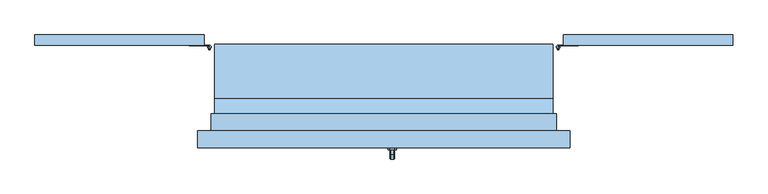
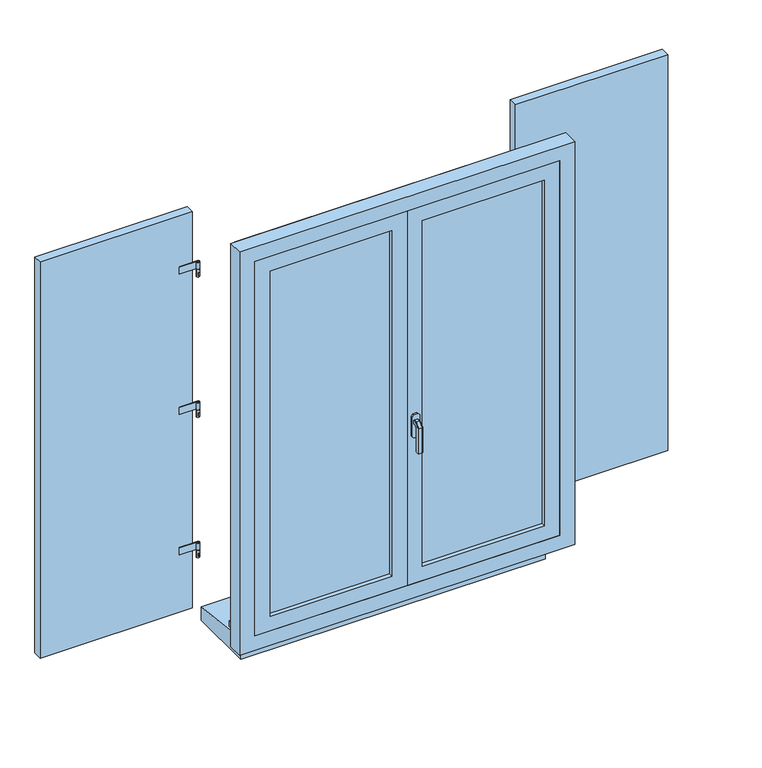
"""IFC4 building model written with IfcOpenShell, lengths in millimetres: window geometry, 2 Vantaux droits - Volets et petits bois : 1m x 1.35m - Appui Béton."""

from ifc_helpers import new_model, si_unit, point, frame, frame_2d, origin, place, context, project, spatial, polyline, circle_curve, trimmed, segment, composite_curve, outline, extrude, faceted_brep, source, transform, mapped, element, save
from ifc_brep_helpers import plane_surface, cylinder_surface, advanced_brep


def window_a55630fe(model_context):
    return source(origin(), model_context, "Body", "SolidModel", [
        extrude(outline(polyline([(-1030.0, 158.0), (-1030.0, 188.0), (-530.0, 188.0), (-530.0, 158.0), (-1030.0, 158.0)])), frame((0.0, 0.0, 775.0), z_axis=(0.0, 0.0, 1.0), x_axis=(1.0, 0.0, 0.0)), (0.0, 0.0, 1.0), 1375.0),
        advanced_brep(
        [(-510.0, 153.0, 975.0), (-520.0, 153.0, 975.0), (-510.0, 153.0, 950.0), (-520.0, 153.0, 950.0), (-517.0, 148.4174243, 955.0), (-517.0, 148.4174243, 965.0), (-513.0, 148.4174243, 965.0), (-513.0, 148.4174243, 955.0), (-513.0, 145.0, 965.0), (-517.0, 145.0, 965.0), (-517.0, 145.0, 955.0), (-513.0, 145.0, 955.0)],
        [
            (0, 1, circle_curve(frame((-515.0, 153.0, 975.0), z_axis=(0.0, 0.0, 1.0), x_axis=(-1.0, 0.0, 0.0)), 5.0)),
            (1, 0, circle_curve(frame((-515.0, 153.0, 975.0), z_axis=(0.0, 0.0, 1.0), x_axis=(-1.0, 0.0, 0.0)), 5.0)),
            (2, 3, circle_curve(frame((-515.0, 153.0, 950.0), z_axis=(0.0, 0.0, -1.0), x_axis=(-1.0, 0.0, 0.0)), 5.0)),
            (3, 2, circle_curve(frame((-515.0, 153.0, 950.0), z_axis=(0.0, 0.0, -1.0), x_axis=(-1.0, 0.0, 0.0)), 5.0)),
            (1, 3),
            (2, 0),
            (4, 5),
            (5, 6, circle_curve(frame((-515.0, 153.0, 965.0), z_axis=(0.0, 0.0, 1.0), x_axis=(-1.0, 0.0, 0.0)), 5.0)),
            (6, 7),
            (7, 4, circle_curve(frame((-515.0, 153.0, 955.0), z_axis=(0.0, 0.0, -1.0), x_axis=(-1.0, 0.0, 0.0)), 5.0)),
            (8, 6),
            (5, 9),
            (9, 8),
            (10, 4),
            (7, 11),
            (11, 10),
            (10, 9),
            (8, 11),
        ],
        [
            plane_surface(frame((-520.0, 153.0, 975.0), z_axis=(0.0, 0.0, 1.0), x_axis=(0.0, 1.0, 0.0))),
            plane_surface(frame((-520.0, 153.0, 950.0), z_axis=(0.0, 0.0, -1.0), x_axis=(0.0, -1.0, 0.0))),
            cylinder_surface(frame((-515.0, 153.0, 950.0), z_axis=(0.0, 0.0, 1.0), x_axis=(-1.0, 0.0, 0.0)), 5.0),
            plane_surface(frame((-517.0, 145.0, 965.0), z_axis=(0.0, 0.0, 1.0), x_axis=(0.0, 1.0, 0.0))),
            plane_surface(frame((-517.0, 145.0, 955.0), z_axis=(0.0, 0.0, -1.0), x_axis=(0.0, -1.0, 0.0))),
            plane_surface(frame((-517.0, 145.0, 965.0), z_axis=(-1.0, 0.0, 0.0), x_axis=(0.0, 0.0, -1.0))),
            plane_surface(frame((-513.0, 150.0, 965.0), z_axis=(1.0, 0.0, 0.0), x_axis=(0.0, 0.0, -1.0))),
            plane_surface(frame((-513.0, 145.0, 965.0), z_axis=(0.0, -1.0, 0.0), x_axis=(0.0, 0.0, -1.0))),
        ],
        [
            (0, [[1, 2]]),
            (1, [[3, 4]]),
            (2, [[5, -3, 6, -2], [7, 8, 9, 10]]),
            (2, [[-6, -4, -5, -1]]),
            (3, [[11, -8, 12, 13]]),
            (4, [[14, -10, 15, 16]]),
            (5, [[-12, -7, -14, 17]]),
            (6, [[-15, -9, -11, 18]]),
            (7, [[-17, -16, -18, -13]]),
        ],
    ),
        extrude(outline(composite_curve([segment(trimmed(circle_curve(frame_2d((-515.0, 153.0)), 5.0), [point((-515.0, 158.0))], [point((-520.0, 153.0))], False, "CARTESIAN"), True, "CONTINUOUS"), segment(polyline([(-520.0, 153.0), (-517.5, 153.0)]), True, "CONTINUOUS"), segment(trimmed(circle_curve(frame_2d((-515.0, 153.0)), 2.5), [point((-517.5, 153.0))], [point((-515.0, 155.5))], True, "CARTESIAN"), True, "CONTINUOUS"), segment(polyline([(-515.0, 155.5), (-574.3092325, 155.5), (-574.3092325, 158.0), (-515.0, 158.0)]), True, "CONTINUOUS")], self_intersect=False)), frame((0.0, 0.0, 975.0), z_axis=(0.0, 0.0, 1.0), x_axis=(1.0, 0.0, 0.0)), (0.0, 0.0, 1.0), 25.0),
        extrude(outline(composite_curve([segment(trimmed(circle_curve(frame_2d((-515.0, 153.0)), 2.5), [point((-512.5, 153.0))], [point((-517.5, 153.0))], False, "CARTESIAN"), True, "CONTINUOUS"), segment(trimmed(circle_curve(frame_2d((-515.0, 153.0)), 2.5), [point((-517.5, 153.0))], [point((-512.5, 153.0))], False, "CARTESIAN"), True, "CONTINUOUS")], self_intersect=False)), frame((0.0, 0.0, 975.0), z_axis=(0.0, 0.0, 1.0), x_axis=(1.0, 0.0, 0.0)), (0.0, 0.0, 1.0), 25.0),
        advanced_brep(
        [(-510.0, 153.0, 1950.0), (-520.0, 153.0, 1950.0), (-510.0, 153.0, 1925.0), (-520.0, 153.0, 1925.0), (-513.0, 148.4174243, 1940.0), (-513.0, 148.4174243, 1930.0), (-517.0, 148.4174243, 1930.0), (-517.0, 148.4174243, 1940.0), (-513.0, 145.0, 1940.0), (-517.0, 145.0, 1940.0), (-513.0, 145.0, 1930.0), (-517.0, 145.0, 1930.0)],
        [
            (0, 1, circle_curve(frame((-515.0, 153.0, 1950.0), z_axis=(0.0, 0.0, 1.0), x_axis=(-1.0, 0.0, 0.0)), 5.0)),
            (1, 0, circle_curve(frame((-515.0, 153.0, 1950.0), z_axis=(0.0, 0.0, 1.0), x_axis=(-1.0, 0.0, 0.0)), 5.0)),
            (2, 3, circle_curve(frame((-515.0, 153.0, 1925.0), z_axis=(0.0, 0.0, -1.0), x_axis=(-1.0, 0.0, 0.0)), 5.0)),
            (3, 2, circle_curve(frame((-515.0, 153.0, 1925.0), z_axis=(0.0, 0.0, -1.0), x_axis=(-1.0, 0.0, 0.0)), 5.0)),
            (1, 3),
            (2, 0),
            (4, 5),
            (5, 6, circle_curve(frame((-515.0, 153.0, 1930.0), z_axis=(0.0, 0.0, -1.0), x_axis=(-1.0, 0.0, 0.0)), 5.0)),
            (6, 7),
            (7, 4, circle_curve(frame((-515.0, 153.0, 1940.0), z_axis=(0.0, 0.0, 1.0), x_axis=(-1.0, 0.0, 0.0)), 5.0)),
            (8, 4),
            (7, 9),
            (9, 8),
            (10, 11),
            (11, 6),
            (5, 10),
            (9, 11),
            (10, 8),
        ],
        [
            plane_surface(frame((-520.0, 153.0, 1950.0), z_axis=(0.0, 0.0, 1.0), x_axis=(0.0, 1.0, 0.0))),
            plane_surface(frame((-520.0, 153.0, 1925.0), z_axis=(0.0, 0.0, -1.0), x_axis=(0.0, -1.0, 0.0))),
            cylinder_surface(frame((-515.0, 153.0, 1925.0), z_axis=(0.0, 0.0, 1.0), x_axis=(-1.0, 0.0, 0.0)), 5.0),
            plane_surface(frame((-513.0, 145.0, 1940.0), z_axis=(0.0, 0.0, 1.0), x_axis=(-1.0, 0.0, 0.0))),
            plane_surface(frame((-513.0, 145.0, 1930.0), z_axis=(0.0, 0.0, -1.0), x_axis=(1.0, 0.0, 0.0))),
            plane_surface(frame((-513.0, 145.0, 1940.0), z_axis=(0.0, -1.0, 0.0), x_axis=(0.0, 0.0, -1.0))),
            plane_surface(frame((-517.0, 145.0, 1940.0), z_axis=(-1.0, 0.0, 0.0), x_axis=(0.0, 0.0, -1.0))),
            plane_surface(frame((-513.0, 148.4174243, 1940.0), z_axis=(1.0, 0.0, 0.0), x_axis=(0.0, 0.0, -1.0))),
        ],
        [
            (0, [[1, 2]]),
            (1, [[3, 4]]),
            (2, [[5, -3, 6, -2], [7, 8, 9, 10]]),
            (2, [[-6, -4, -5, -1]]),
            (3, [[11, -10, 12, 13]]),
            (4, [[14, 15, -8, 16]]),
            (5, [[17, -14, 18, -13]]),
            (6, [[-9, -15, -17, -12]]),
            (7, [[-18, -16, -7, -11]]),
        ],
    ),
        extrude(outline(polyline([(-513.0, 145.0), (-517.0, 145.0), (-517.0, 148.4174243), (-513.0, 148.4174243), (-513.0, 145.0)])), frame((0.0, 0.0, 1442.5), z_axis=(0.0, 0.0, 1.0), x_axis=(1.0, 0.0, 0.0)), (0.0, 0.0, 1.0), 10.0),
        extrude(outline(composite_curve([segment(trimmed(circle_curve(frame_2d((-515.0, 153.0)), 5.0), [point((-515.0, 158.0))], [point((-520.0, 153.0))], False, "CARTESIAN"), True, "CONTINUOUS"), segment(polyline([(-520.0, 153.0), (-517.5, 153.0)]), True, "CONTINUOUS"), segment(trimmed(circle_curve(frame_2d((-515.0, 153.0)), 2.5), [point((-517.5, 153.0))], [point((-512.5, 153.0))], True, "CARTESIAN"), True, "CONTINUOUS"), segment(trimmed(circle_curve(frame_2d((-515.0, 153.0)), 2.5), [point((-512.5, 153.0))], [point((-515.0, 155.5))], True, "CARTESIAN"), True, "CONTINUOUS"), segment(polyline([(-515.0, 155.5), (-574.3092325, 155.5), (-574.3092325, 158.0), (-515.0, 158.0)]), True, "CONTINUOUS")], self_intersect=False)), frame((0.0, 0.0, 1462.5), z_axis=(0.0, 0.0, 1.0), x_axis=(1.0, 0.0, 0.0)), (0.0, 0.0, 1.0), 25.0),
        extrude(outline(composite_curve([segment(trimmed(circle_curve(frame_2d((-515.0, 153.0)), 2.5), [point((-512.5, 153.0))], [point((-517.5, 153.0))], False, "CARTESIAN"), True, "CONTINUOUS"), segment(trimmed(circle_curve(frame_2d((-515.0, 153.0)), 2.5), [point((-517.5, 153.0))], [point((-512.5, 153.0))], False, "CARTESIAN"), True, "CONTINUOUS")], self_intersect=False)), frame((0.0, 0.0, 1462.5), z_axis=(0.0, 0.0, 1.0), x_axis=(1.0, 0.0, 0.0)), (0.0, 0.0, 1.0), 25.0),
        extrude(outline(composite_curve([segment(trimmed(circle_curve(frame_2d((-515.0, 153.0)), 5.0), [point((-510.0, 153.0))], [point((-520.0, 153.0))], False, "CARTESIAN"), True, "CONTINUOUS"), segment(trimmed(circle_curve(frame_2d((-515.0, 153.0)), 5.0), [point((-520.0, 153.0))], [point((-510.0, 153.0))], False, "CARTESIAN"), True, "CONTINUOUS")], self_intersect=False)), frame((0.0, 0.0, 1437.5), z_axis=(0.0, 0.0, 1.0), x_axis=(1.0, 0.0, 0.0)), (0.0, 0.0, 1.0), 25.0),
        extrude(outline(composite_curve([segment(trimmed(circle_curve(frame_2d((-515.0, 153.0)), 5.0), [point((-515.0, 158.0))], [point((-520.0, 153.0))], False, "CARTESIAN"), True, "CONTINUOUS"), segment(polyline([(-520.0, 153.0), (-517.5, 153.0)]), True, "CONTINUOUS"), segment(trimmed(circle_curve(frame_2d((-515.0, 153.0)), 2.5), [point((-517.5, 153.0))], [point((-515.0, 155.5))], True, "CARTESIAN"), True, "CONTINUOUS"), segment(polyline([(-515.0, 155.5), (-574.3092325, 155.5), (-574.3092325, 158.0), (-515.0, 158.0)]), True, "CONTINUOUS")], self_intersect=False)), frame((0.0, 0.0, 1950.0), z_axis=(0.0, 0.0, 1.0), x_axis=(1.0, 0.0, 0.0)), (0.0, 0.0, 1.0), 25.0),
        extrude(outline(composite_curve([segment(trimmed(circle_curve(frame_2d((-515.0, 153.0)), 2.5), [point((-512.5, 153.0))], [point((-517.5, 153.0))], False, "CARTESIAN"), True, "CONTINUOUS"), segment(trimmed(circle_curve(frame_2d((-515.0, 153.0)), 2.5), [point((-517.5, 153.0))], [point((-512.5, 153.0))], False, "CARTESIAN"), True, "CONTINUOUS")], self_intersect=False)), frame((0.0, 0.0, 1950.0), z_axis=(0.0, 0.0, 1.0), x_axis=(1.0, 0.0, 0.0)), (0.0, 0.0, 1.0), 25.0),
        extrude(outline(polyline([(1030.0, 158.0), (530.0, 158.0), (530.0, 188.0), (1030.0, 188.0), (1030.0, 158.0)])), frame((0.0, 0.0, 775.0), z_axis=(0.0, 0.0, 1.0), x_axis=(1.0, 0.0, 0.0)), (0.0, 0.0, 1.0), 1375.0),
        advanced_brep(
        [(510.0, 153.0, 975.0), (520.0, 153.0, 975.0), (510.0, 153.0, 950.0), (520.0, 153.0, 950.0), (517.0, 148.4174243, 955.0), (513.0, 148.4174243, 955.0), (513.0, 148.4174243, 965.0), (517.0, 148.4174243, 965.0), (513.0, 145.0, 965.0), (517.0, 145.0, 965.0), (517.0, 145.0, 955.0), (513.0, 145.0, 955.0)],
        [
            (0, 1, circle_curve(frame((515.0, 153.0, 975.0), z_axis=(0.0, 0.0, 1.0), x_axis=(1.0, 0.0, 0.0)), 5.0)),
            (1, 0, circle_curve(frame((515.0, 153.0, 975.0), z_axis=(0.0, 0.0, 1.0), x_axis=(1.0, 0.0, 0.0)), 5.0)),
            (2, 3, circle_curve(frame((515.0, 153.0, 950.0), z_axis=(0.0, 0.0, -1.0), x_axis=(1.0, 0.0, 0.0)), 5.0)),
            (3, 2, circle_curve(frame((515.0, 153.0, 950.0), z_axis=(0.0, 0.0, -1.0), x_axis=(1.0, 0.0, 0.0)), 5.0)),
            (0, 2),
            (3, 1),
            (4, 5, circle_curve(frame((515.0, 153.0, 955.0), z_axis=(0.0, 0.0, -1.0), x_axis=(1.0, 0.0, 0.0)), 5.0)),
            (5, 6),
            (6, 7, circle_curve(frame((515.0, 153.0, 965.0), z_axis=(0.0, 0.0, 1.0), x_axis=(1.0, 0.0, 0.0)), 5.0)),
            (7, 4),
            (8, 9),
            (9, 7),
            (6, 8),
            (10, 11),
            (11, 5),
            (4, 10),
            (9, 10),
            (11, 8),
        ],
        [
            plane_surface(frame((520.0, 153.0, 975.0), z_axis=(0.0, 0.0, 1.0), x_axis=(0.0, 1.0, 0.0))),
            plane_surface(frame((520.0, 153.0, 950.0), z_axis=(0.0, 0.0, -1.0), x_axis=(0.0, -1.0, 0.0))),
            cylinder_surface(frame((515.0, 153.0, 950.0), z_axis=(0.0, 0.0, 1.0), x_axis=(1.0, 0.0, 0.0)), 5.0),
            plane_surface(frame((517.0, 145.0, 965.0), z_axis=(0.0, 0.0, 1.0), x_axis=(0.0, 1.0, 0.0))),
            plane_surface(frame((517.0, 145.0, 955.0), z_axis=(0.0, 0.0, -1.0), x_axis=(0.0, -1.0, 0.0))),
            plane_surface(frame((517.0, 145.0, 965.0), z_axis=(1.0, 0.0, 0.0), x_axis=(0.0, 0.0, -1.0))),
            plane_surface(frame((513.0, 150.0, 965.0), z_axis=(-1.0, 0.0, 0.0), x_axis=(0.0, 0.0, -1.0))),
            plane_surface(frame((513.0, 145.0, 965.0), z_axis=(0.0, -1.0, 0.0), x_axis=(0.0, 0.0, -1.0))),
        ],
        [
            (0, [[1, 2]]),
            (1, [[3, 4]]),
            (2, [[-1, 5, -4, 6], [7, 8, 9, 10]]),
            (2, [[-2, -6, -3, -5]]),
            (3, [[11, 12, -9, 13]]),
            (4, [[14, 15, -7, 16]]),
            (5, [[17, -16, -10, -12]]),
            (6, [[18, -13, -8, -15]]),
            (7, [[-11, -18, -14, -17]]),
        ],
    ),
        extrude(outline(composite_curve([segment(polyline([(515.0, 158.0), (574.3092325, 158.0), (574.3092325, 155.5), (515.0, 155.5)]), True, "CONTINUOUS"), segment(trimmed(circle_curve(frame_2d((515.0, 153.0)), 2.5), [point((515.0, 155.5))], [point((517.5, 153.0))], True, "CARTESIAN"), True, "CONTINUOUS"), segment(polyline([(517.5, 153.0), (520.0, 153.0)]), True, "CONTINUOUS"), segment(trimmed(circle_curve(frame_2d((515.0, 153.0)), 5.0), [point((520.0, 153.0))], [point((515.0, 158.0))], False, "CARTESIAN"), True, "CONTINUOUS")], self_intersect=False)), frame((0.0, 0.0, 975.0), z_axis=(0.0, 0.0, 1.0), x_axis=(1.0, 0.0, 0.0)), (0.0, 0.0, 1.0), 25.0),
        extrude(outline(composite_curve([segment(trimmed(circle_curve(frame_2d((515.0, 153.0)), 2.5), [point((512.5, 153.0))], [point((517.5, 153.0))], False, "CARTESIAN"), True, "CONTINUOUS"), segment(trimmed(circle_curve(frame_2d((515.0, 153.0)), 2.5), [point((517.5, 153.0))], [point((512.5, 153.0))], False, "CARTESIAN"), True, "CONTINUOUS")], self_intersect=False)), frame((0.0, 0.0, 975.0), z_axis=(0.0, 0.0, 1.0), x_axis=(1.0, 0.0, 0.0)), (0.0, 0.0, 1.0), 25.0),
        advanced_brep(
        [(510.0, 153.0, 1950.0), (520.0, 153.0, 1950.0), (510.0, 153.0, 1925.0), (520.0, 153.0, 1925.0), (513.0, 148.4174243, 1940.0), (517.0, 148.4174243, 1940.0), (517.0, 148.4174243, 1930.0), (513.0, 148.4174243, 1930.0), (513.0, 145.0, 1940.0), (517.0, 145.0, 1940.0), (513.0, 145.0, 1930.0), (517.0, 145.0, 1930.0)],
        [
            (0, 1, circle_curve(frame((515.0, 153.0, 1950.0), z_axis=(0.0, 0.0, 1.0), x_axis=(1.0, 0.0, 0.0)), 5.0)),
            (1, 0, circle_curve(frame((515.0, 153.0, 1950.0), z_axis=(0.0, 0.0, 1.0), x_axis=(1.0, 0.0, 0.0)), 5.0)),
            (2, 3, circle_curve(frame((515.0, 153.0, 1925.0), z_axis=(0.0, 0.0, -1.0), x_axis=(1.0, 0.0, 0.0)), 5.0)),
            (3, 2, circle_curve(frame((515.0, 153.0, 1925.0), z_axis=(0.0, 0.0, -1.0), x_axis=(1.0, 0.0, 0.0)), 5.0)),
            (0, 2),
            (3, 1),
            (4, 5, circle_curve(frame((515.0, 153.0, 1940.0), z_axis=(0.0, 0.0, 1.0), x_axis=(1.0, 0.0, 0.0)), 5.0)),
            (5, 6),
            (6, 7, circle_curve(frame((515.0, 153.0, 1930.0), z_axis=(0.0, 0.0, -1.0), x_axis=(1.0, 0.0, 0.0)), 5.0)),
            (7, 4),
            (8, 9),
            (9, 5),
            (4, 8),
            (10, 7),
            (6, 11),
            (11, 10),
            (8, 10),
            (11, 9),
        ],
        [
            plane_surface(frame((520.0, 153.0, 1950.0), z_axis=(0.0, 0.0, 1.0), x_axis=(0.0, 1.0, 0.0))),
            plane_surface(frame((520.0, 153.0, 1925.0), z_axis=(0.0, 0.0, -1.0), x_axis=(0.0, -1.0, 0.0))),
            cylinder_surface(frame((515.0, 153.0, 1925.0), z_axis=(0.0, 0.0, 1.0), x_axis=(1.0, 0.0, 0.0)), 5.0),
            plane_surface(frame((513.0, 145.0, 1940.0), z_axis=(0.0, 0.0, 1.0), x_axis=(1.0, 0.0, 0.0))),
            plane_surface(frame((513.0, 145.0, 1930.0), z_axis=(0.0, 0.0, -1.0), x_axis=(-1.0, 0.0, 0.0))),
            plane_surface(frame((513.0, 145.0, 1940.0), z_axis=(0.0, -1.0, 0.0), x_axis=(0.0, 0.0, -1.0))),
            plane_surface(frame((517.0, 145.0, 1940.0), z_axis=(1.0, 0.0, 0.0), x_axis=(0.0, 0.0, -1.0))),
            plane_surface(frame((513.0, 148.4174243, 1940.0), z_axis=(-1.0, 0.0, 0.0), x_axis=(0.0, 0.0, -1.0))),
        ],
        [
            (0, [[1, 2]]),
            (1, [[3, 4]]),
            (2, [[-1, 5, -4, 6], [7, 8, 9, 10]]),
            (2, [[-2, -6, -3, -5]]),
            (3, [[11, 12, -7, 13]]),
            (4, [[14, -9, 15, 16]]),
            (5, [[-11, 17, -16, 18]]),
            (6, [[-12, -18, -15, -8]]),
            (7, [[-13, -10, -14, -17]]),
        ],
    ),
        extrude(outline(polyline([(513.0, 145.0), (513.0, 148.4174243), (517.0, 148.4174243), (517.0, 145.0), (513.0, 145.0)])), frame((0.0, 0.0, 1442.5), z_axis=(0.0, 0.0, 1.0), x_axis=(1.0, 0.0, 0.0)), (0.0, 0.0, 1.0), 10.0),
        extrude(outline(composite_curve([segment(polyline([(515.0, 158.0), (574.3092325, 158.0), (574.3092325, 155.5), (515.0, 155.5)]), True, "CONTINUOUS"), segment(trimmed(circle_curve(frame_2d((515.0, 153.0)), 2.5), [point((515.0, 155.5))], [point((512.5, 153.0))], True, "CARTESIAN"), True, "CONTINUOUS"), segment(trimmed(circle_curve(frame_2d((515.0, 153.0)), 2.5), [point((512.5, 153.0))], [point((517.5, 153.0))], True, "CARTESIAN"), True, "CONTINUOUS"), segment(polyline([(517.5, 153.0), (520.0, 153.0)]), True, "CONTINUOUS"), segment(trimmed(circle_curve(frame_2d((515.0, 153.0)), 5.0), [point((520.0, 153.0))], [point((515.0, 158.0))], False, "CARTESIAN"), True, "CONTINUOUS")], self_intersect=False)), frame((0.0, 0.0, 1462.5), z_axis=(0.0, 0.0, 1.0), x_axis=(1.0, 0.0, 0.0)), (0.0, 0.0, 1.0), 25.0),
        extrude(outline(composite_curve([segment(trimmed(circle_curve(frame_2d((515.0, 153.0)), 2.5), [point((512.5, 153.0))], [point((517.5, 153.0))], False, "CARTESIAN"), True, "CONTINUOUS"), segment(trimmed(circle_curve(frame_2d((515.0, 153.0)), 2.5), [point((517.5, 153.0))], [point((512.5, 153.0))], False, "CARTESIAN"), True, "CONTINUOUS")], self_intersect=False)), frame((0.0, 0.0, 1462.5), z_axis=(0.0, 0.0, 1.0), x_axis=(1.0, 0.0, 0.0)), (0.0, 0.0, 1.0), 25.0),
        extrude(outline(composite_curve([segment(trimmed(circle_curve(frame_2d((515.0, 153.0)), 5.0), [point((510.0, 153.0))], [point((520.0, 153.0))], False, "CARTESIAN"), True, "CONTINUOUS"), segment(trimmed(circle_curve(frame_2d((515.0, 153.0)), 5.0), [point((520.0, 153.0))], [point((510.0, 153.0))], False, "CARTESIAN"), True, "CONTINUOUS")], self_intersect=False)), frame((0.0, 0.0, 1437.5), z_axis=(0.0, 0.0, 1.0), x_axis=(1.0, 0.0, 0.0)), (0.0, 0.0, 1.0), 25.0),
        extrude(outline(composite_curve([segment(polyline([(515.0, 158.0), (574.3092325, 158.0), (574.3092325, 155.5), (515.0, 155.5)]), True, "CONTINUOUS"), segment(trimmed(circle_curve(frame_2d((515.0, 153.0)), 2.5), [point((515.0, 155.5))], [point((517.5, 153.0))], True, "CARTESIAN"), True, "CONTINUOUS"), segment(polyline([(517.5, 153.0), (520.0, 153.0)]), True, "CONTINUOUS"), segment(trimmed(circle_curve(frame_2d((515.0, 153.0)), 5.0), [point((520.0, 153.0))], [point((515.0, 158.0))], False, "CARTESIAN"), True, "CONTINUOUS")], self_intersect=False)), frame((0.0, 0.0, 1950.0), z_axis=(0.0, 0.0, 1.0), x_axis=(1.0, 0.0, 0.0)), (0.0, 0.0, 1.0), 25.0),
        extrude(outline(composite_curve([segment(trimmed(circle_curve(frame_2d((515.0, 153.0)), 2.5), [point((512.5, 153.0))], [point((517.5, 153.0))], False, "CARTESIAN"), True, "CONTINUOUS"), segment(trimmed(circle_curve(frame_2d((515.0, 153.0)), 2.5), [point((517.5, 153.0))], [point((512.5, 153.0))], False, "CARTESIAN"), True, "CONTINUOUS")], self_intersect=False)), frame((0.0, 0.0, 1950.0), z_axis=(0.0, 0.0, 1.0), x_axis=(1.0, 0.0, 0.0)), (0.0, 0.0, 1.0), 25.0),
        faceted_brep([(30.6460097, -151.0, 1422.0339292), (32.0339292, -151.0, 1420.6460097), (32.0339292, -151.0, 1409.3323012), (30.6676988, -151.0, 1407.9660708), (19.3323012, -151.0, 1407.9660708), (17.9660708, -151.0, 1409.3323012), (17.9660708, -151.0, 1420.6460097), (19.3539903, -151.0, 1422.0339292), (30.6460097, -163.9135489, 1422.0339292), (32.0339292, -163.3386538, 1420.6460097), (32.0339292, -176.6460097, 1407.3386538), (32.0339292, -176.6460097, 1320.0), (32.0339292, -165.3323012, 1320.0), (32.0339292, -165.3323012, 1402.6523623), (32.0339292, -158.6523623, 1409.3323012), (30.6676988, -158.0864511, 1407.9660708), (19.3323012, -158.0864511, 1407.9660708), (17.9660708, -158.6523623, 1409.3323012), (17.9660708, -165.3323012, 1402.6523623), (17.9660708, -165.3323012, 1320.0), (17.9660708, -176.6460097, 1320.0), (17.9660708, -176.6460097, 1407.3386538), (17.9660708, -163.3386538, 1420.6460097), (19.3539903, -163.9135489, 1422.0339292), (30.6460097, -178.0339292, 1407.9135489), (30.6676988, -163.9660708, 1402.0864511), (19.3323012, -163.9660708, 1402.0864511), (19.3539903, -178.0339292, 1407.9135489), (30.6460097, -178.0339292, 1320.0), (19.3539903, -178.0339292, 1320.0), (19.3323012, -163.9660708, 1320.0), (30.6676988, -163.9660708, 1320.0)], [[[0, 1, 2, 3, 4, 5, 6, 7]], [[1, 0, 8, 9]], [[2, 1, 9, 10, 11, 12, 13, 14]], [[3, 2, 14, 15]], [[4, 3, 15, 16]], [[5, 4, 16, 17]], [[6, 5, 17, 18, 19, 20, 21, 22]], [[7, 6, 22, 23]], [[0, 7, 23, 8]], [[9, 8, 24, 10]], [[15, 14, 13, 25]], [[16, 15, 25, 26]], [[17, 16, 26, 18]], [[23, 22, 21, 27]], [[8, 23, 27, 24]], [[28, 29, 20, 19, 30, 31, 12, 11]], [[10, 24, 28, 11]], [[25, 13, 12, 31]], [[26, 25, 31, 30]], [[18, 26, 30, 19]], [[27, 21, 20, 29]], [[24, 27, 29, 28]]]),
        extrude(outline(polyline([(1440.0, 32.0), (1440.0, 18.0), (1435.0, 13.0), (1365.0, 13.0), (1360.0, 18.0), (1360.0, 32.0), (1365.0, 37.0), (1435.0, 37.0), (1440.0, 32.0)])), frame((0.0, -151.0, 0.0), z_axis=(0.0, 1.0, 0.0), x_axis=(0.0, 0.0, 1.0)), (0.0, 0.0, 1.0), 6.0),
        extrude(outline(polyline([(-65.0, 800.0), (-15.0, 800.0), (-15.0, 785.0), (160.0, 766.6067588), (160.0, 720.0), (-65.0, 720.0), (-65.0, 800.0)])), frame((-500.0, 0.0, 0.0), z_axis=(1.0, 0.0, 0.0), x_axis=(0.0, 1.0, 0.0)), (0.0, 0.0, 1.0), 1000.0),
        extrude(outline(polyline([(850.0, 0.0), (2150.0, 0.0), (2150.0, -500.0), (850.0, -500.0), (850.0, 0.0)]), holes=[polyline([(900.0, -450.0), (2100.0, -450.0), (2100.0, -50.0), (900.0, -50.0), (900.0, -450.0)])]), frame((0.0, -145.0, 0.0), z_axis=(0.0, 1.0, 0.0), x_axis=(0.0, 0.0, 1.0)), (0.0, 0.0, 1.0), 40.0),
        extrude(outline(polyline([(50.0, -119.0), (450.0, -119.0), (450.0, -131.0), (50.0, -131.0), (50.0, -119.0)])), frame((0.0, 0.0, 900.0), z_axis=(0.0, 0.0, 1.0), x_axis=(1.0, 0.0, 0.0)), (0.0, 0.0, 1.0), 1200.0),
        extrude(outline(polyline([(-450.0, -119.0), (-50.0, -119.0), (-50.0, -131.0), (-450.0, -131.0), (-450.0, -119.0)])), frame((0.0, 0.0, 900.0), z_axis=(0.0, 0.0, 1.0), x_axis=(1.0, 0.0, 0.0)), (0.0, 0.0, 1.0), 1200.0),
        extrude(outline(polyline([(850.0, 500.0), (2150.0, 500.0), (2150.0, 0.0), (850.0, 0.0), (850.0, 500.0)]), holes=[polyline([(900.0, 50.0), (2100.0, 50.0), (2100.0, 450.0), (900.0, 450.0), (900.0, 50.0)])]), frame((0.0, -145.0, 0.0), z_axis=(0.0, 1.0, 0.0), x_axis=(0.0, 0.0, 1.0)), (0.0, 0.0, 1.0), 40.0),
        faceted_brep([(-550.0, -145.0, 800.0), (-550.0, -95.0, 800.0), (-500.0, -95.0, 800.0), (-500.0, -10.0, 800.0), (500.0, -10.0, 800.0), (500.0, -95.0, 800.0), (550.0, -95.0, 800.0), (550.0, -145.0, 800.0), (-550.0, -145.0, 2200.0), (-550.0, -95.0, 2200.0), (550.0, -95.0, 2200.0), (500.0, -95.0, 839.3761425), (-500.0, -95.0, 839.3761425), (-485.0, -95.0, 2135.0), (-485.0, -95.0, 865.0), (485.0, -95.0, 865.0), (485.0, -95.0, 2135.0), (-500.0, 0.0, 813.9209692), (-500.0, 0.0, 795.0), (-500.0, -10.0, 795.0), (500.0, -10.0, 795.0), (500.0, 0.0, 795.0), (500.0, 0.0, 813.9209692), (550.0, -145.0, 2200.0), (500.0, -145.0, 2150.0), (500.0, -145.0, 850.0), (-500.0, -145.0, 850.0), (-500.0, -145.0, 2150.0), (-485.0, -105.0, 2135.0), (-485.0, -105.0, 865.0), (485.0, -105.0, 865.0), (485.0, -105.0, 2135.0), (500.0, -105.0, 2150.0), (-500.0, -105.0, 2150.0), (-500.0, -105.0, 850.0), (500.0, -105.0, 850.0)], [[[0, 1, 2, 3, 4, 5, 6, 7]], [[1, 0, 8, 9]], [[1, 9, 10, 6, 5, 11, 12, 2], [13, 14, 15, 16]], [[12, 17, 18, 19, 3, 2]], [[3, 19, 20, 4]], [[4, 20, 21, 22, 11, 5]], [[6, 10, 23, 7]], [[0, 7, 23, 8], [24, 25, 26, 27]], [[13, 28, 29, 14]], [[29, 30, 15, 14]], [[31, 16, 15, 30]], [[17, 12, 11, 22]], [[32, 33, 34, 35], [28, 31, 30, 29]], [[34, 33, 27, 26]], [[26, 25, 35, 34]], [[24, 32, 35, 25]], [[18, 17, 22, 21]], [[19, 18, 21, 20]], [[13, 16, 31, 28]], [[33, 32, 24, 27]], [[10, 9, 8, 23]]]),
        extrude(outline(polyline([(800.0, -510.0), (800.0, -500.0), (2150.0, -500.0), (2150.0, 500.0), (800.0, 500.0), (800.0, 510.0), (2160.0, 510.0), (2160.0, -510.0), (800.0, -510.0)])), frame((0.0, -95.0, 0.0), z_axis=(0.0, 1.0, 0.0), x_axis=(0.0, 0.0, 1.0)), (0.0, 0.0, 1.0), 50.0),
        extrude(outline(polyline([(20.0, -97.0), (20.0, -105.0), (-20.0, -105.0), (-20.0, -97.0), (20.0, -97.0)])), frame((0.0, 0.0, 865.0), z_axis=(0.0, 0.0, 1.0), x_axis=(1.0, 0.0, 0.0)), (0.0, 0.0, 1.0), 1270.0),
    ])


if __name__ == "__main__":
    model = new_model("IFC4")
    model_context = context("Model", 3, world=origin())
    ifc_project = project(units=[si_unit("LENGTHUNIT", "METRE", prefix="MILLI")], contexts=[model_context])
    site = spatial("IfcSite", under=ifc_project)
    building = spatial("IfcBuilding", under=site)
    placement = place(None, origin())
    window_shape = window_a55630fe(model_context)
    element("IfcWindow", 1, ObjectType="2 Vantaux droits - Volets et petits bois : 1m x 1.35m - Appui Béton", at=placement, inside=building, context=model_context, shape_type="MappedRepresentation", body=[
        mapped(window_shape, transform((0.0, 0.0, 0.0), x_axis=(1.0, 0.0, 0.0), y_axis=(0.0, 1.0, 0.0), z_axis=(0.0, 0.0, 1.0))),
    ])
    save(model, "model.ifc")
